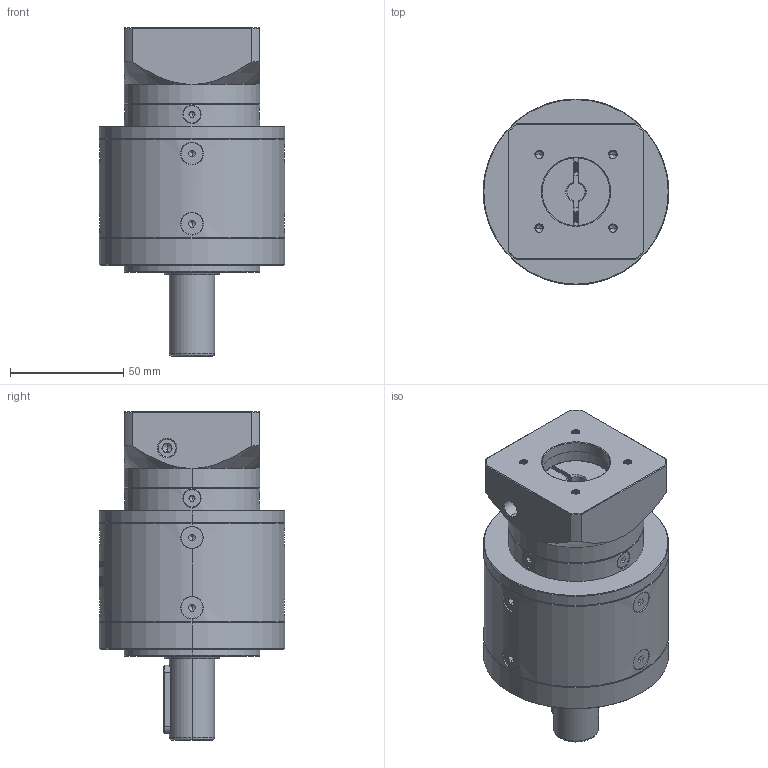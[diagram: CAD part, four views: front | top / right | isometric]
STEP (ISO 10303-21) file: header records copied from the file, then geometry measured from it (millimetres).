
FILE_DESCRIPTION (( 'STEP AP214' ), '1' );
FILE_NAME ('ZE80-D20-L2-8-30-46-M4.step', '2022-05-08T06:00:35', ( '' ), ( 'Microsoft' ), 'SwSTEP 2.0', 'SolidWorks 2016', '' );
FILE_SCHEMA (( 'AUTOMOTIVE_DESIGN' ));
Length unit declared in the file: millimetre
Products named in the file (1): ZE80-D20-L2-8-30-46-M4
Bounding box: 82 x 82 x 145 mm (x, y, z)
Volume: 450867.8 mm3; surface area: 64821.6 mm2
Topology: 18 solids, 18 shells, 2088 faces, 5487 edges, 3490 vertices
Faces by surface type: plane 943, cylinder 485, bspline 340, cone 306, torus 14
Entity records: 116011 total; most frequent: CARTESIAN_POINT 45663, ORIENTED_EDGE 10882, DIRECTION 8467, EDGE_CURVE 5441, VERTEX_POINT 3490, VECTOR 2901, LINE 2901, AXIS2_PLACEMENT_3D 2783
